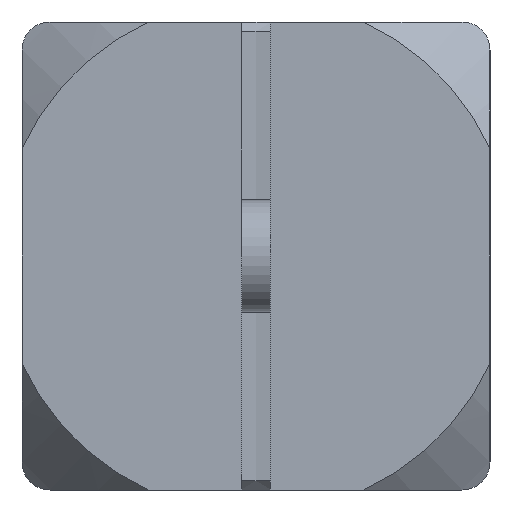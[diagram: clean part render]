
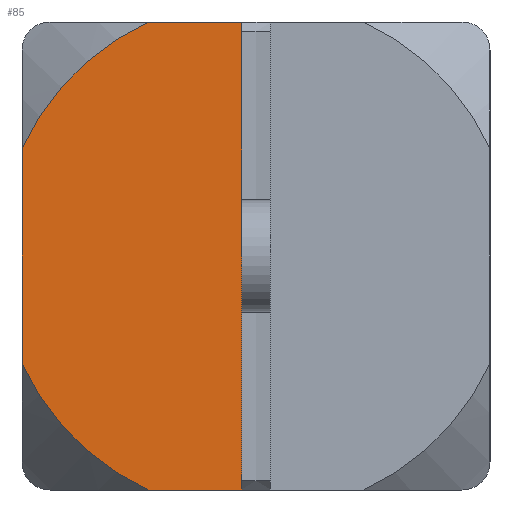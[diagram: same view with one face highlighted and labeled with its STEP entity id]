
A CAD part, left-side view. The second image highlights one B-rep face of the part: STEP entity #85.
In plain terms, the highlighted planar face has unit normal (-1, 0, 0).
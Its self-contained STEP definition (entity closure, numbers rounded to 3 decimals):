
#85 = ADVANCED_FACE( '', ( #185 ), #186, .F. );
#185 = FACE_OUTER_BOUND( '', #385, .T. );
#186 = PLANE( '', #386 );
#385 = EDGE_LOOP( '', ( #651, #652, #653, #654, #655, #656 ) );
#386 = AXIS2_PLACEMENT_3D( '', #657, #658, #659 );
#651 = ORIENTED_EDGE( '', *, *, #1259, .F. );
#652 = ORIENTED_EDGE( '', *, *, #1280, .F. );
#653 = ORIENTED_EDGE( '', *, *, #1281, .F. );
#654 = ORIENTED_EDGE( '', *, *, #1282, .T. );
#655 = ORIENTED_EDGE( '', *, *, #1283, .F. );
#656 = ORIENTED_EDGE( '', *, *, #1284, .T. );
#657 = CARTESIAN_POINT( '', ( -21.5, 12.5, 12.5 ) );
#658 = DIRECTION( '', ( 1., 0., 0. ) );
#659 = DIRECTION( '', ( 0., 0., -1. ) );
#1259 = EDGE_CURVE( '', #1491, #1483, #1493, .T. );
#1280 = EDGE_CURVE( '', #1531, #1491, #1532, .T. );
#1281 = EDGE_CURVE( '', #1533, #1531, #1534, .T. );
#1282 = EDGE_CURVE( '', #1533, #1535, #1536, .T. );
#1283 = EDGE_CURVE( '', #1537, #1535, #1538, .T. );
#1284 = EDGE_CURVE( '', #1537, #1483, #1539, .T. );
#1483 = VERTEX_POINT( '', #1867 );
#1491 = VERTEX_POINT( '', #1883 );
#1493 = LINE( '', #1886, #1887 );
#1531 = VERTEX_POINT( '', #2003 );
#1532 = LINE( '', #2004, #2005 );
#1533 = VERTEX_POINT( '', #2006 );
#1534 = CIRCLE( '', #2007, 13.75 );
#1535 = VERTEX_POINT( '', #2008 );
#1536 = LINE( '', #2009, #2010 );
#1537 = VERTEX_POINT( '', #2011 );
#1538 = CIRCLE( '', #2012, 13.75 );
#1539 = LINE( '', #2013, #2014 );
#1867 = CARTESIAN_POINT( '', ( -21.5, 0.75, -12.5 ) );
#1883 = CARTESIAN_POINT( '', ( -21.5, 0.75, 12.5 ) );
#1886 = CARTESIAN_POINT( '', ( -21.5, 0.75, 12.5 ) );
#1887 = VECTOR( '', #2501, 1000. );
#2003 = CARTESIAN_POINT( '', ( -21.5, 5.728, 12.5 ) );
#2004 = CARTESIAN_POINT( '', ( -21.5, 12.5, 12.5 ) );
#2005 = VECTOR( '', #2517, 1000. );
#2006 = CARTESIAN_POINT( '', ( -21.5, 12.5, 5.728 ) );
#2007 = AXIS2_PLACEMENT_3D( '', #2518, #2519, #2520 );
#2008 = CARTESIAN_POINT( '', ( -21.5, 12.5, -5.728 ) );
#2009 = CARTESIAN_POINT( '', ( -21.5, 12.5, 12.5 ) );
#2010 = VECTOR( '', #2521, 1000. );
#2011 = CARTESIAN_POINT( '', ( -21.5, 5.728, -12.5 ) );
#2012 = AXIS2_PLACEMENT_3D( '', #2522, #2523, #2524 );
#2013 = CARTESIAN_POINT( '', ( -21.5, 12.5, -12.5 ) );
#2014 = VECTOR( '', #2525, 1000. );
#2501 = DIRECTION( '', ( 0., 0., -1. ) );
#2517 = DIRECTION( '', ( 0., -1., 0. ) );
#2518 = CARTESIAN_POINT( '', ( -21.5, 0., 0. ) );
#2519 = DIRECTION( '', ( 1., 0., 0. ) );
#2520 = DIRECTION( '', ( 0., 0., -1. ) );
#2521 = DIRECTION( '', ( 0., 0., -1. ) );
#2522 = CARTESIAN_POINT( '', ( -21.5, 0., 0. ) );
#2523 = DIRECTION( '', ( 1., 0., 0. ) );
#2524 = DIRECTION( '', ( 0., 0., -1. ) );
#2525 = DIRECTION( '', ( 0., -1., 0. ) );
